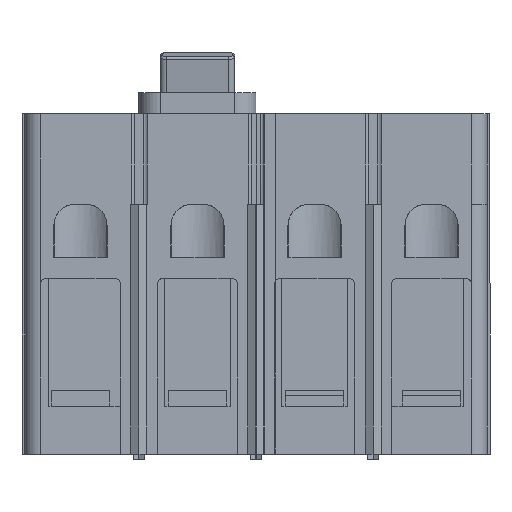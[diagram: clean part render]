
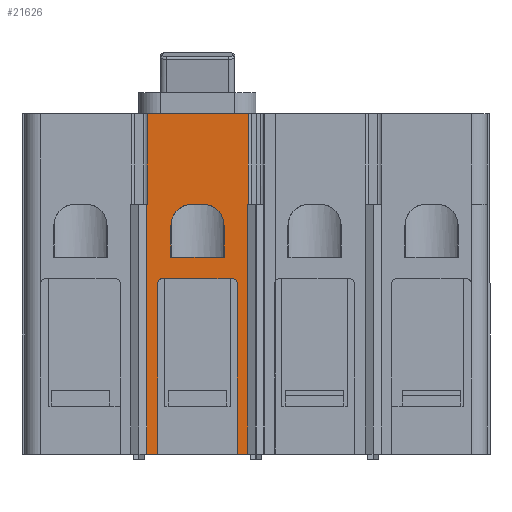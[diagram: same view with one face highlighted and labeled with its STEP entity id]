
A CAD part, front view. The second image highlights one B-rep face of the part: STEP entity #21626.
In plain terms, the highlighted planar face has unit normal (0, -1, 0).
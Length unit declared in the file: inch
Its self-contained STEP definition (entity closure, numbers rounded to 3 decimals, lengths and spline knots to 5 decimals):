
#2141=CARTESIAN_POINT('',(-0.1069,-4.48419,-2.93953));
#2142=VERTEX_POINT('',#2141);
#2149=CARTESIAN_POINT('',(-0.2319,-4.48419,-2.93953));
#2150=VERTEX_POINT('',#2149);
#2151=CARTESIAN_POINT('',(-0.1069,-4.48419,-2.93953));
#2152=DIRECTION('',(-1.0,0.0,0.0));
#2153=VECTOR('',#2152,0.125);
#2154=LINE('',#2151,#2153);
#2155=EDGE_CURVE('',#2142,#2150,#2154,.T.);
#2173=CARTESIAN_POINT('',(-1.1699,-4.48419,-2.93953));
#2174=VERTEX_POINT('',#2173);
#2181=CARTESIAN_POINT('',(-1.2939,-4.48419,-2.93953));
#2182=VERTEX_POINT('',#2181);
#2183=CARTESIAN_POINT('',(-1.1699,-4.48419,-2.93953));
#2184=DIRECTION('',(-1.0,0.0,0.0));
#2185=VECTOR('',#2184,0.124);
#2186=LINE('',#2183,#2185);
#2187=EDGE_CURVE('',#2174,#2182,#2186,.T.);
#2765=CARTESIAN_POINT('',(-1.2934,-4.48419,1.06047));
#2766=VERTEX_POINT('',#2765);
#2773=CARTESIAN_POINT('',(-0.1064,-4.48419,1.06047));
#2774=VERTEX_POINT('',#2773);
#2775=CARTESIAN_POINT('',(-0.1064,-4.48419,1.06047));
#2776=DIRECTION('',(-1.0,0.0,0.0));
#2777=VECTOR('',#2776,1.187);
#2778=LINE('',#2775,#2777);
#2779=EDGE_CURVE('',#2774,#2766,#2778,.T.);
#5593=CARTESIAN_POINT('',(-1.0124,-4.48419,-0.62653));
#5594=VERTEX_POINT('',#5593);
#5601=CARTESIAN_POINT('',(-0.3874,-4.48419,-0.62653));
#5602=VERTEX_POINT('',#5601);
#5603=CARTESIAN_POINT('',(-0.3874,-4.48419,-0.62653));
#5604=DIRECTION('',(-1.0,0.0,0.0));
#5605=VECTOR('',#5604,0.625);
#5606=LINE('',#5603,#5605);
#5607=EDGE_CURVE('',#5602,#5594,#5606,.T.);
#5745=CARTESIAN_POINT('',(-0.3874,-4.48419,-0.25153));
#5746=VERTEX_POINT('',#5745);
#5753=CARTESIAN_POINT('',(-0.6374,-4.48419,-0.00153));
#5754=VERTEX_POINT('',#5753);
#5755=CARTESIAN_POINT('',(-0.6374,-4.48419,-0.25153));
#5756=DIRECTION('',(0.0,1.0,0.0));
#5757=DIRECTION('',(-1.0,0.0,0.0));
#5758=AXIS2_PLACEMENT_3D('',#5755,#5756,#5757);
#5759=CIRCLE('',#5758,0.25);
#5760=EDGE_CURVE('',#5754,#5746,#5759,.T.);
#5777=CARTESIAN_POINT('',(-0.3874,-4.48419,-0.25153));
#5778=DIRECTION('',(0.0,0.0,-1.0));
#5779=VECTOR('',#5778,0.375);
#5780=LINE('',#5777,#5779);
#5781=EDGE_CURVE('',#5746,#5602,#5780,.T.);
#5794=CARTESIAN_POINT('',(-0.7624,-4.48419,-0.00153));
#5795=VERTEX_POINT('',#5794);
#5802=CARTESIAN_POINT('',(-1.0124,-4.48419,-0.25153));
#5803=VERTEX_POINT('',#5802);
#5804=CARTESIAN_POINT('',(-0.7624,-4.48419,-0.25153));
#5805=DIRECTION('',(0.0,1.0,0.0));
#5806=DIRECTION('',(0.0,0.0,-1.0));
#5807=AXIS2_PLACEMENT_3D('',#5804,#5805,#5806);
#5808=CIRCLE('',#5807,0.25);
#5809=EDGE_CURVE('',#5803,#5795,#5808,.T.);
#5828=CARTESIAN_POINT('',(-1.0124,-4.48419,-0.62653));
#5829=DIRECTION('',(0.0,0.0,1.0));
#5830=VECTOR('',#5829,0.375);
#5831=LINE('',#5828,#5830);
#5832=EDGE_CURVE('',#5594,#5803,#5831,.T.);
#11619=CARTESIAN_POINT('',(-0.1069,-4.48419,-0.00153));
#11620=VERTEX_POINT('',#11619);
#11629=CARTESIAN_POINT('',(-0.1064,-4.48419,-0.00153));
#11630=VERTEX_POINT('',#11629);
#11637=CARTESIAN_POINT('',(-0.1064,-4.48419,-0.00153));
#11638=DIRECTION('',(-1.0,0.0,0.0));
#11639=VECTOR('',#11638,0.0005);
#11640=LINE('',#11637,#11639);
#11641=EDGE_CURVE('',#11630,#11620,#11640,.T.);
#11680=CARTESIAN_POINT('',(-0.7624,-4.48419,-0.00153));
#11681=DIRECTION('',(1.0,0.0,0.0));
#11682=VECTOR('',#11681,0.125);
#11683=LINE('',#11680,#11682);
#11684=EDGE_CURVE('',#5795,#5754,#11683,.T.);
#11757=CARTESIAN_POINT('',(-1.2934,-4.48419,-0.00153));
#11758=VERTEX_POINT('',#11757);
#11767=CARTESIAN_POINT('',(-1.2934,-4.48419,-0.00153));
#11768=DIRECTION('',(0.0,0.0,1.0));
#11769=VECTOR('',#11768,1.062);
#11770=LINE('',#11767,#11769);
#11771=EDGE_CURVE('',#11758,#2766,#11770,.T.);
#16292=CARTESIAN_POINT('',(-0.1064,-4.48419,-0.00153));
#16293=DIRECTION('',(0.0,0.0,1.0));
#16294=VECTOR('',#16293,1.062);
#16295=LINE('',#16292,#16294);
#16296=EDGE_CURVE('',#11630,#2774,#16295,.T.);
#17685=CARTESIAN_POINT('',(-1.2939,-4.48419,-0.00153));
#17686=VERTEX_POINT('',#17685);
#17693=CARTESIAN_POINT('',(-1.2934,-4.48419,-0.00153));
#17694=DIRECTION('',(-1.0,0.0,0.0));
#17695=VECTOR('',#17694,0.0005);
#17696=LINE('',#17693,#17695);
#17697=EDGE_CURVE('',#11758,#17686,#17696,.T.);
#21516=CARTESIAN_POINT('',(-0.2939,-4.48419,-0.87653));
#21517=VERTEX_POINT('',#21516);
#21524=CARTESIAN_POINT('',(-1.1079,-4.48419,-0.87653));
#21525=VERTEX_POINT('',#21524);
#21526=CARTESIAN_POINT('',(-0.2939,-4.48419,-0.87653));
#21527=DIRECTION('',(-1.0,0.0,0.0));
#21528=VECTOR('',#21527,0.814);
#21529=LINE('',#21526,#21528);
#21530=EDGE_CURVE('',#21517,#21525,#21529,.T.);
#21549=CARTESIAN_POINT('',(-1.1699,-4.48419,-0.93853));
#21550=VERTEX_POINT('',#21549);
#21551=CARTESIAN_POINT('',(-1.1079,-4.48419,-0.93853));
#21552=DIRECTION('',(0.0,-1.0,0.0));
#21553=DIRECTION('',(0.0,0.0,1.0));
#21554=AXIS2_PLACEMENT_3D('',#21551,#21552,#21553);
#21555=CIRCLE('',#21554,0.062);
#21556=EDGE_CURVE('',#21525,#21550,#21555,.T.);
#21569=CARTESIAN_POINT('',(1.3621,-4.48419,-0.00153));
#21570=DIRECTION('',(0.0,-1.0,0.0));
#21571=DIRECTION('',(0.0,0.0,-1.0));
#21572=AXIS2_PLACEMENT_3D('',#21569,#21570,#21571);
#21573=PLANE('',#21572);
#21574=CARTESIAN_POINT('',(-0.2319,-4.48419,-0.93853));
#21575=VERTEX_POINT('',#21574);
#21576=CARTESIAN_POINT('',(-0.2319,-4.48419,-2.93953));
#21577=DIRECTION('',(0.0,0.0,1.0));
#21578=VECTOR('',#21577,2.001);
#21579=LINE('',#21576,#21578);
#21580=EDGE_CURVE('',#2150,#21575,#21579,.T.);
#21581=ORIENTED_EDGE('',*,*,#21580,.F.);
#21582=ORIENTED_EDGE('',*,*,#2155,.F.);
#21583=CARTESIAN_POINT('',(-0.1069,-4.48419,-0.00153));
#21584=DIRECTION('',(0.0,0.0,-1.0));
#21585=VECTOR('',#21584,2.938);
#21586=LINE('',#21583,#21585);
#21587=EDGE_CURVE('',#11620,#2142,#21586,.T.);
#21588=ORIENTED_EDGE('',*,*,#21587,.F.);
#21589=ORIENTED_EDGE('',*,*,#11641,.F.);
#21590=ORIENTED_EDGE('',*,*,#16296,.T.);
#21591=ORIENTED_EDGE('',*,*,#2779,.T.);
#21592=ORIENTED_EDGE('',*,*,#11771,.F.);
#21593=ORIENTED_EDGE('',*,*,#17697,.T.);
#21594=CARTESIAN_POINT('',(-1.2939,-4.48419,-0.00153));
#21595=DIRECTION('',(0.0,0.0,-1.0));
#21596=VECTOR('',#21595,2.938);
#21597=LINE('',#21594,#21596);
#21598=EDGE_CURVE('',#17686,#2182,#21597,.T.);
#21599=ORIENTED_EDGE('',*,*,#21598,.T.);
#21600=ORIENTED_EDGE('',*,*,#2187,.F.);
#21601=CARTESIAN_POINT('',(-1.1699,-4.48419,-2.93953));
#21602=DIRECTION('',(0.0,0.0,1.0));
#21603=VECTOR('',#21602,2.001);
#21604=LINE('',#21601,#21603);
#21605=EDGE_CURVE('',#2174,#21550,#21604,.T.);
#21606=ORIENTED_EDGE('',*,*,#21605,.T.);
#21607=ORIENTED_EDGE('',*,*,#21556,.F.);
#21608=ORIENTED_EDGE('',*,*,#21530,.F.);
#21609=CARTESIAN_POINT('',(-0.2939,-4.48419,-0.93853));
#21610=DIRECTION('',(0.0,-1.0,0.0));
#21611=DIRECTION('',(1.0,0.0,0.0));
#21612=AXIS2_PLACEMENT_3D('',#21609,#21610,#21611);
#21613=CIRCLE('',#21612,0.062);
#21614=EDGE_CURVE('',#21575,#21517,#21613,.T.);
#21615=ORIENTED_EDGE('',*,*,#21614,.F.);
#21616=EDGE_LOOP('',(#21581,#21582,#21588,#21589,#21590,#21591,#21592,#21593,#21599,#21600,#21606,#21607,#21608,#21615));
#21617=FACE_OUTER_BOUND('',#21616,.T.);
#21618=ORIENTED_EDGE('',*,*,#5607,.T.);
#21619=ORIENTED_EDGE('',*,*,#5832,.T.);
#21620=ORIENTED_EDGE('',*,*,#5809,.T.);
#21621=ORIENTED_EDGE('',*,*,#11684,.T.);
#21622=ORIENTED_EDGE('',*,*,#5760,.T.);
#21623=ORIENTED_EDGE('',*,*,#5781,.T.);
#21624=EDGE_LOOP('',(#21618,#21619,#21620,#21621,#21622,#21623));
#21625=FACE_BOUND('',#21624,.T.);
#21626=ADVANCED_FACE('',(#21617,#21625),#21573,.T.);
